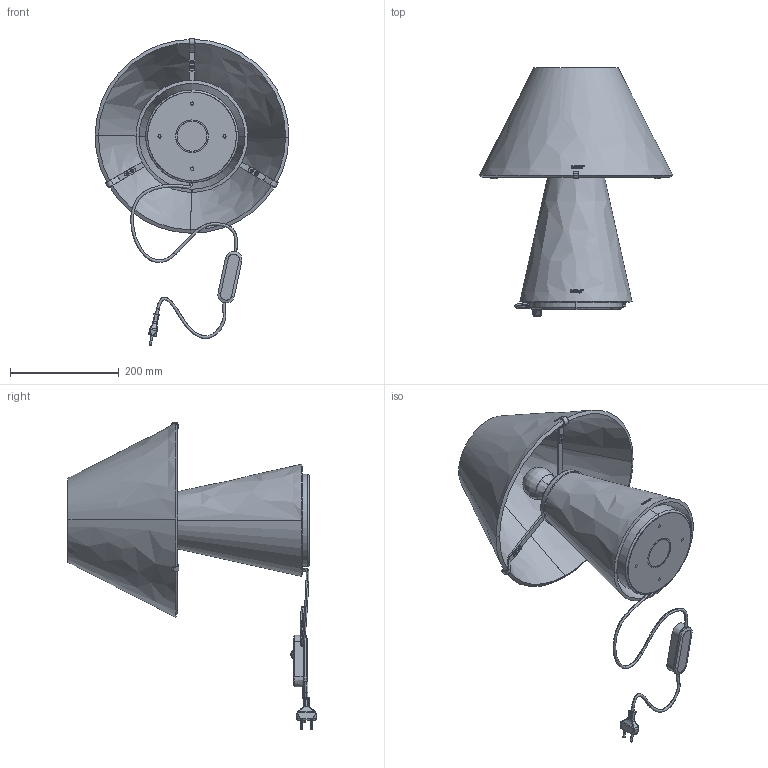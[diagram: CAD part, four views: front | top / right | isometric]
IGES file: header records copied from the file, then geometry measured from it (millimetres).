
Start section: SolidWorks IGES file using analytic representation for surfaces
Global section: file name: G:\Drive condivisi\Ufficio Tecnico\Prodotti\A07 UpGlass\Progetto\A07-T1\3D Step\UpGlas Table 2.IGS; native system: SolidWorks 2024; preprocessor: SolidWorks 2024; author: Tecnico01; date: 250605.095400; units: millimetre
Bounding box: 356.74 x 456.38 x 565.41 mm (x, y, z)
Surface area: 861930.8 mm2 (no closed solid volume)
Topology: 0 solids, 0 shells, 1299 faces, 18244 edges, 18227 vertices
Faces by surface type: bspline 791, revolution 508
